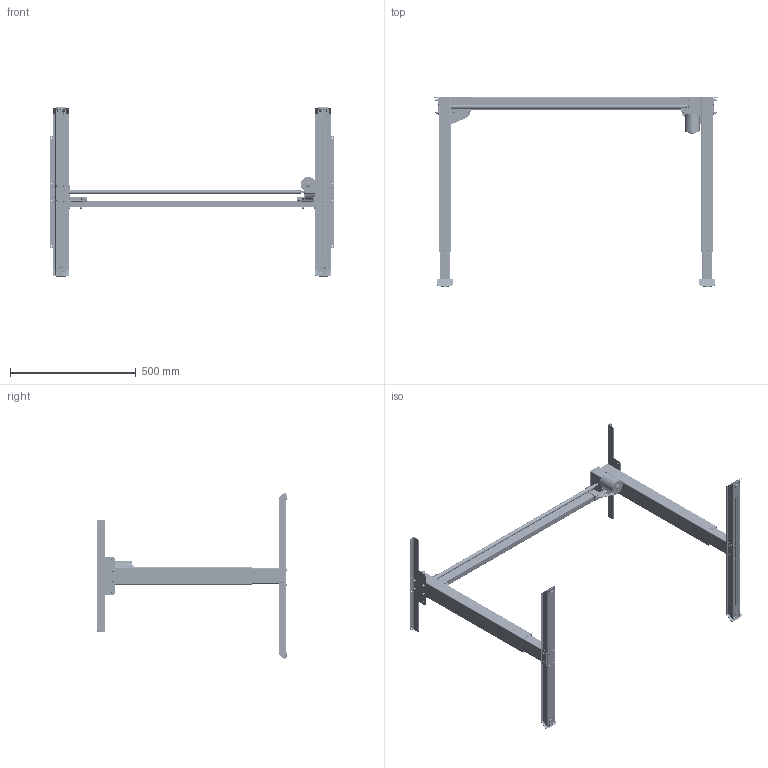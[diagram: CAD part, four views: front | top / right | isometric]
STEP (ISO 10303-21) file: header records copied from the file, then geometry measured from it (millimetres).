
FILE_DESCRIPTION (( 'STEP AP214' ), '1' );
FILE_NAME ('Tech-draw_501-20_XX112.STEP', '2024-01-12T08:44:40', ( '' ), ( '' ), 'SwSTEP 2.0', 'SolidWorks 2023', '' );
FILE_SCHEMA (( 'AUTOMOTIVE_DESIGN' ));
Length unit declared in the file: millimetre
Products named in the file (66): 347920_112; 357620; 156440_Shell; 347910_112; 353050; 360380; 358020; 156500_501-33 NEW; 160370_silver; 159290_Shell; 359910_501-33 NY; 340760; 155730_silver; 341800; 322650_501-33; 357630; 353110; 353020; 356430_60x40; 151900; 160360_silver; 156490_Shell; 357760_Højere; 360360_70mm; 357720; 358000_Simplify_1; 360330; 156470_501-33 NEW; 360350_70mm; 353060; 360310; 360490; 341220; 156460_Shell; 144260_112; 305990; 360300; 356710_silver; 353030; 357610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
Assembly tree (159 placements, depth 7):
  305990
  Tech-draw_501-20_XX112
    160340_501-20 XS112
      347910_112
      144260_112
        347920_112
        340560
        341220
      340760  x3
      332570  x4
      160370_silver
        360300
        360330
        159290_Shell
          156440_Shell
            156460_Shell
              356390
              360340_kopi_gammel
            357580  x2
            357760_Højere
            358020
            357710
            352350
          357630  x2
          357640  x2
          341800
          156470_501-33 NEW
            357620
            360350_70mm
          352350
        159280_501-20
          359910_501-33 NY
          360380
          360490  x2
        360310
        358000_Simplify_1  x3
        340760  x2
        332570  x2
        349470  x2
        155730_silver
          357990_black
          356710_silver
          322810_zinc  x3
          353020
          353030
          151900
            353100
            322650_501-33  x2
            353050
            353060
            301890_Bend 7  x2
          353110  x2
          353120
          357720
        357610  x11
        358280  x4
        314690  x7
        325000  x8
      160360_silver
        159300_Shell
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Bounding box: 1135 x 756.2 x 674.9 mm (x, y, z)
Volume: 2059025.8 mm3; surface area: 2374266 mm2
Topology: 153 solids, 153 shells, 7918 faces, 20276 edges, 12743 vertices
Faces by surface type: plane 4127, cylinder 2383, bspline 589, cone 406, torus 212, sphere 201
Full cylindrical faces by diameter (mm): 1 x3, 1.2 x16, 1.6 x1, 1.7 x2, 1.9 x6, 2.2 x2, 2.5 x5, 3 x20, 3.3 x6, 4 x48, 4.2 x12, 4.5 x5, 4.98 x2, 5 x224, 5.5 x7, 6 x240, 6.4 x1, 7 x20, 7.4 x4, 7.5 x13, 8 x20, 8.2 x4, 8.5 x22, 9 x4, 10 x25, 11.9 x2, 12 x1, 13 x2, 14 x2, 16 x2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
Entity records: 168928 total; most frequent: CARTESIAN_POINT 59714, ORIENTED_EDGE 22410, DIRECTION 21572, EDGE_CURVE 11205, VERTEX_POINT 7339, AXIS2_PLACEMENT_3D 7321, LINE 6930, VECTOR 6930
